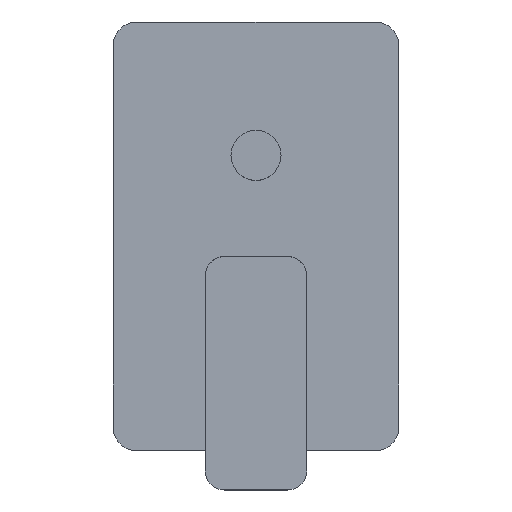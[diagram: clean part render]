
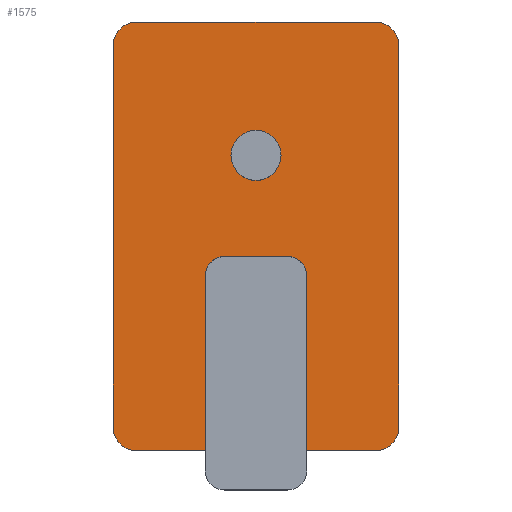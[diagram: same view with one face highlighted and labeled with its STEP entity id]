
A CAD part, top view. The second image highlights one B-rep face of the part: STEP entity #1575.
In plain terms, the highlighted planar face has unit normal (0, 0, 1).
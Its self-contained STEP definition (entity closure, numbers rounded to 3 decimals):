
#20=FACE_BOUND('',#446,.T.);
#21=FACE_BOUND('',#447,.T.);
#82=LINE('',#2494,#208);
#85=LINE('',#2500,#211);
#86=LINE('',#2504,#212);
#87=LINE('',#2508,#213);
#208=VECTOR('',#1994,10.);
#211=VECTOR('',#1999,10.);
#212=VECTOR('',#2002,10.);
#213=VECTOR('',#2005,10.);
#357=FACE_OUTER_BOUND('',#445,.T.);
#445=EDGE_LOOP('',(#1126,#1127,#1128,#1129,#1130,#1131,#1132,#1133));
#446=EDGE_LOOP('',(#1134,#1135));
#447=EDGE_LOOP('',(#1136,#1137));
#536=CIRCLE('',#1699,10.5);
#537=CIRCLE('',#1700,10.5);
#545=CIRCLE('',#1713,10.);
#546=CIRCLE('',#1716,10.);
#547=CIRCLE('',#1717,10.);
#548=CIRCLE('',#1718,10.);
#549=CIRCLE('',#1719,21.);
#550=CIRCLE('',#1720,21.);
#641=VERTEX_POINT('',#2459);
#642=VERTEX_POINT('',#2460);
#651=VERTEX_POINT('',#2487);
#652=VERTEX_POINT('',#2489);
#653=VERTEX_POINT('',#2493);
#655=VERTEX_POINT('',#2499);
#656=VERTEX_POINT('',#2501);
#657=VERTEX_POINT('',#2503);
#658=VERTEX_POINT('',#2505);
#659=VERTEX_POINT('',#2507);
#660=VERTEX_POINT('',#2510);
#661=VERTEX_POINT('',#2511);
#816=EDGE_CURVE('',#641,#642,#536,.T.);
#817=EDGE_CURVE('',#642,#641,#537,.T.);
#830=EDGE_CURVE('',#651,#652,#545,.T.);
#832=EDGE_CURVE('',#652,#653,#82,.T.);
#835=EDGE_CURVE('',#655,#651,#85,.T.);
#836=EDGE_CURVE('',#656,#655,#546,.T.);
#837=EDGE_CURVE('',#657,#656,#86,.T.);
#838=EDGE_CURVE('',#658,#657,#547,.T.);
#839=EDGE_CURVE('',#659,#658,#87,.T.);
#840=EDGE_CURVE('',#653,#659,#548,.T.);
#841=EDGE_CURVE('',#660,#661,#549,.T.);
#842=EDGE_CURVE('',#661,#660,#550,.T.);
#1126=ORIENTED_EDGE('',*,*,#830,.F.);
#1127=ORIENTED_EDGE('',*,*,#835,.F.);
#1128=ORIENTED_EDGE('',*,*,#836,.F.);
#1129=ORIENTED_EDGE('',*,*,#837,.F.);
#1130=ORIENTED_EDGE('',*,*,#838,.F.);
#1131=ORIENTED_EDGE('',*,*,#839,.F.);
#1132=ORIENTED_EDGE('',*,*,#840,.F.);
#1133=ORIENTED_EDGE('',*,*,#832,.F.);
#1134=ORIENTED_EDGE('',*,*,#816,.T.);
#1135=ORIENTED_EDGE('',*,*,#817,.T.);
#1136=ORIENTED_EDGE('',*,*,#841,.T.);
#1137=ORIENTED_EDGE('',*,*,#842,.T.);
#1457=PLANE('',#1715);
#1575=ADVANCED_FACE('',(#357,#20,#21),#1457,.F.);
#1699=AXIS2_PLACEMENT_3D('',#2461,#1956,#1957);
#1700=AXIS2_PLACEMENT_3D('',#2462,#1958,#1959);
#1713=AXIS2_PLACEMENT_3D('',#2490,#1989,#1990);
#1715=AXIS2_PLACEMENT_3D('',#2498,#1997,#1998);
#1716=AXIS2_PLACEMENT_3D('',#2502,#2000,#2001);
#1717=AXIS2_PLACEMENT_3D('',#2506,#2003,#2004);
#1718=AXIS2_PLACEMENT_3D('',#2509,#2006,#2007);
#1719=AXIS2_PLACEMENT_3D('',#2512,#2008,#2009);
#1720=AXIS2_PLACEMENT_3D('',#2513,#2010,#2011);
#1956=DIRECTION('center_axis',(0.,0.,-1.));
#1957=DIRECTION('ref_axis',(0.,1.,0.));
#1958=DIRECTION('center_axis',(0.,0.,-1.));
#1959=DIRECTION('ref_axis',(0.,1.,0.));
#1989=DIRECTION('center_axis',(0.,0.,-1.));
#1990=DIRECTION('ref_axis',(-0.707,-0.707,0.));
#1994=DIRECTION('',(0.,1.,0.));
#1997=DIRECTION('center_axis',(0.,0.,-1.));
#1998=DIRECTION('ref_axis',(-1.,0.,0.));
#1999=DIRECTION('',(-1.,0.,0.));
#2000=DIRECTION('center_axis',(0.,0.,-1.));
#2001=DIRECTION('ref_axis',(0.707,-0.707,0.));
#2002=DIRECTION('',(0.,-1.,0.));
#2003=DIRECTION('center_axis',(0.,0.,-1.));
#2004=DIRECTION('ref_axis',(0.707,0.707,0.));
#2005=DIRECTION('',(1.,0.,0.));
#2006=DIRECTION('center_axis',(0.,0.,-1.));
#2007=DIRECTION('ref_axis',(-0.707,0.707,0.));
#2008=DIRECTION('center_axis',(0.,0.,-1.));
#2009=DIRECTION('ref_axis',(0.,1.,0.));
#2010=DIRECTION('center_axis',(0.,0.,-1.));
#2011=DIRECTION('ref_axis',(0.,1.,0.));
#2459=CARTESIAN_POINT('',(24.,74.5,8.));
#2460=CARTESIAN_POINT('',(24.,53.5,8.));
#2461=CARTESIAN_POINT('Origin',(24.,64.,8.));
#2462=CARTESIAN_POINT('Origin',(24.,64.,8.));
#2487=CARTESIAN_POINT('',(-26.,-60.,8.));
#2489=CARTESIAN_POINT('',(-36.,-50.,8.));
#2490=CARTESIAN_POINT('Origin',(-26.,-50.,8.));
#2493=CARTESIAN_POINT('',(-36.,110.,8.));
#2494=CARTESIAN_POINT('',(-36.,-60.,8.));
#2498=CARTESIAN_POINT('Origin',(24.,30.,8.));
#2499=CARTESIAN_POINT('',(74.,-60.,8.));
#2500=CARTESIAN_POINT('',(84.,-60.,8.));
#2501=CARTESIAN_POINT('',(84.,-50.,8.));
#2502=CARTESIAN_POINT('Origin',(74.,-50.,8.));
#2503=CARTESIAN_POINT('',(84.,110.,8.));
#2504=CARTESIAN_POINT('',(84.,120.,8.));
#2505=CARTESIAN_POINT('',(74.,120.,8.));
#2506=CARTESIAN_POINT('Origin',(74.,110.,8.));
#2507=CARTESIAN_POINT('',(-26.,120.,8.));
#2508=CARTESIAN_POINT('',(-36.,120.,8.));
#2509=CARTESIAN_POINT('Origin',(-26.,110.,8.));
#2510=CARTESIAN_POINT('',(24.,21.,8.));
#2511=CARTESIAN_POINT('',(24.,-21.,8.));
#2512=CARTESIAN_POINT('Origin',(24.,0.,8.));
#2513=CARTESIAN_POINT('Origin',(24.,0.,8.));
